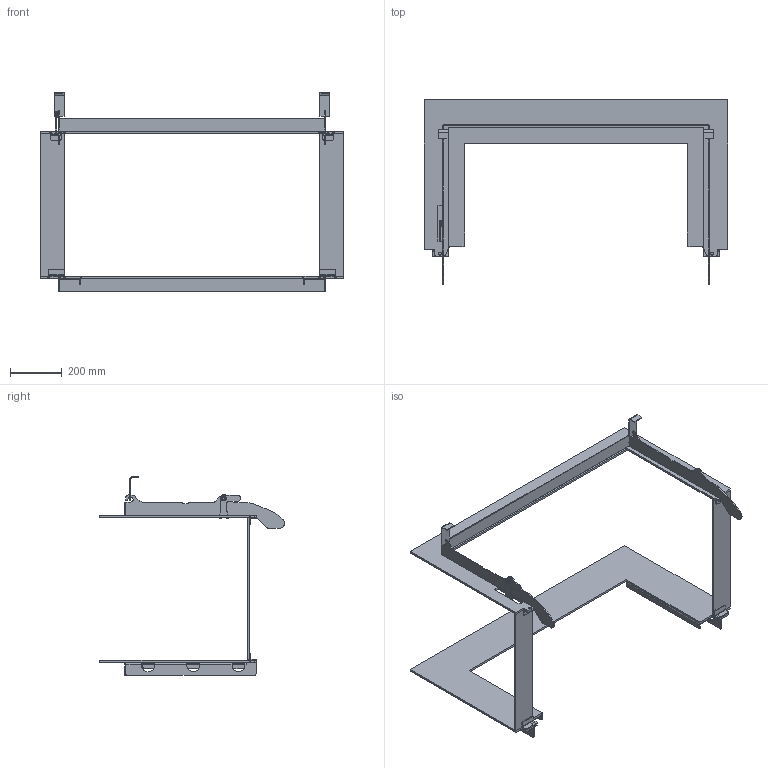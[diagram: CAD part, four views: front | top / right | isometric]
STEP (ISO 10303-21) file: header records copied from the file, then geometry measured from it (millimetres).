
FILE_DESCRIPTION(/* description */ ('','CAx-IF Rec.Pracs.---Representation and Presentation of Product Manufacturing Information (PMI)---3.8---2014-02-18'),/* implementation_level */ '2;1');
FILE_NAME(/* name */ 'C:\Users\ggu\Desktop\3D export\RIII_55x100x46_Einbaurahmen_geschraubt_Gen1_2017-01534.stp',/* time_stamp */ '2017-05-04T13:43:17+02:00',/* author */ ('GGU'),/* organization */ (''),/* preprocessor_version */ 'ST-DEVELOPER v16.1',/* originating_system */ 'Autodesk Inventor 2016',/* authorisation */ '');
FILE_SCHEMA (('AP242_MANAGED_MODEL_BASED_3D_ENGINEERING_MIM_LF { 1 0 10303 442 1 1 4 }'));
Length unit declared in the file: centimetre
Products named in the file (1): 2017-01685
Bounding box: 1175 x 715.25 x 768 mm (x, y, z)
Surface area: 1898136.4 mm2
Topology: 2 solids, 3 shells, 538 faces, 1511 edges, 948 vertices
Faces by surface type: plane 288, cylinder 236, bspline 12, cone 2
Full cylindrical faces by diameter (mm): 10 x1, 10.21 x1, 20 x1, 25 x2
Entity records: 17913 total; most frequent: CARTESIAN_POINT 3282, ORIENTED_EDGE 3022, DIRECTION 3017, EDGE_CURVE 1506, AXIS2_PLACEMENT_3D 1013, LINE 991, VECTOR 991, VERTEX_POINT 950
